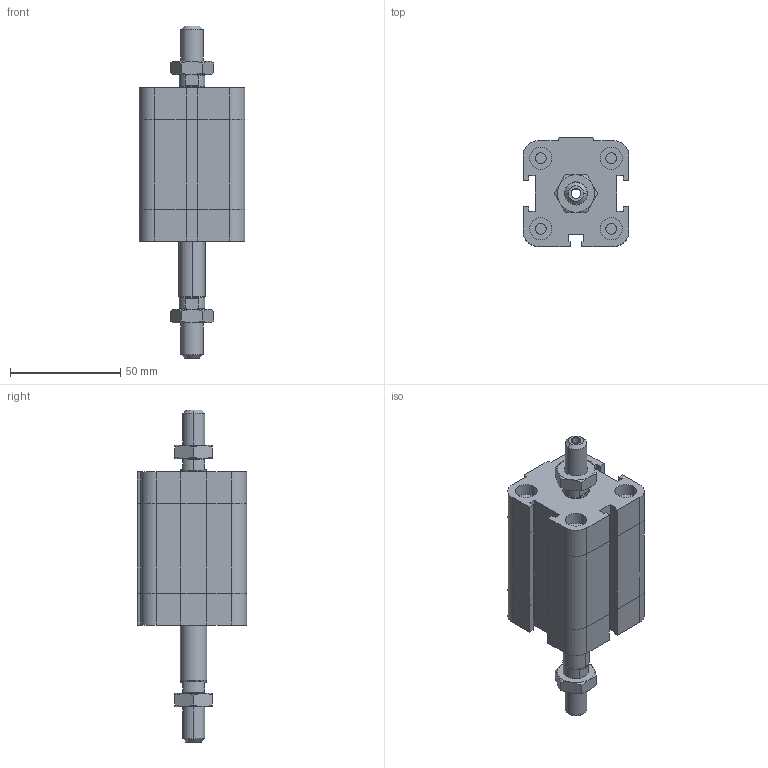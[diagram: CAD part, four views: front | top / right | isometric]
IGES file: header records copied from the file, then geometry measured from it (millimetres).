
Global section: file name: No Iges File Name specified; native system: Autodesk Inventor 2009; preprocessor: AutoDesk Inventor Iges Exporter R2009; author: maffial1; date: 20090420.142706; units: millimetre
Bounding box: 48 x 49.5 x 150.5 mm (x, y, z)
Volume: 146549.8 mm3; surface area: 35580.3 mm2
Topology: 4 solids, 4 shells, 262 faces, 580 edges, 346 vertices
Faces by surface type: plane 129, bspline 53, cone 38, cylinder 22, revolution 20
